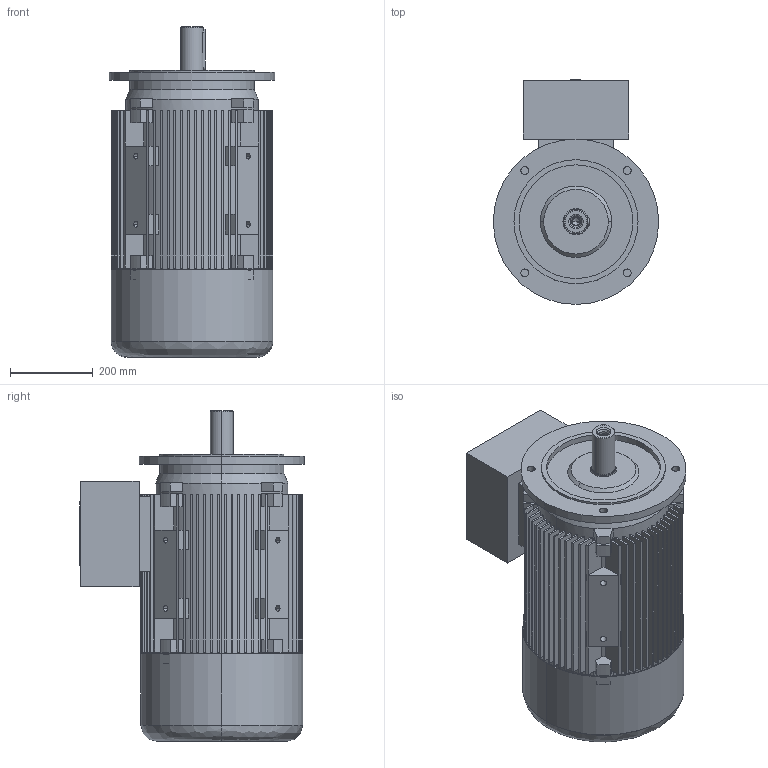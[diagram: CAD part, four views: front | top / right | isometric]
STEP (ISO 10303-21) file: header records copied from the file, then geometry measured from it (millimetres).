
FILE_DESCRIPTION (( 'STEP AP203' ), '1' );
FILE_NAME ('20.18424_B 7AT 200 B5 STANDK.STEP', '2018-04-24T11:22:42', ( '' ), ( '' ), 'SwSTEP 2.0', 'SolidWorks 2017', '' );
FILE_SCHEMA (( 'CONFIG_CONTROL_DESIGN' ));
Length unit declared in the file: millimetre
Products named in the file (1): 20.18424_B 7AT 200 B5 STANDK
Bounding box: 400 x 544 x 800 mm (x, y, z)
Volume: 29779362.9 mm3; surface area: 4200835.6 mm2
Topology: 5 solids, 5 shells, 772 faces, 2061 edges, 1349 vertices
Faces by surface type: plane 545, cylinder 176, cone 38, bspline 13
Entity records: 24699 total; most frequent: CARTESIAN_POINT 4998, DIRECTION 4119, ORIENTED_EDGE 4086, EDGE_CURVE 2043, LINE 1403, VECTOR 1403, AXIS2_PLACEMENT_3D 1358, VERTEX_POINT 1349
